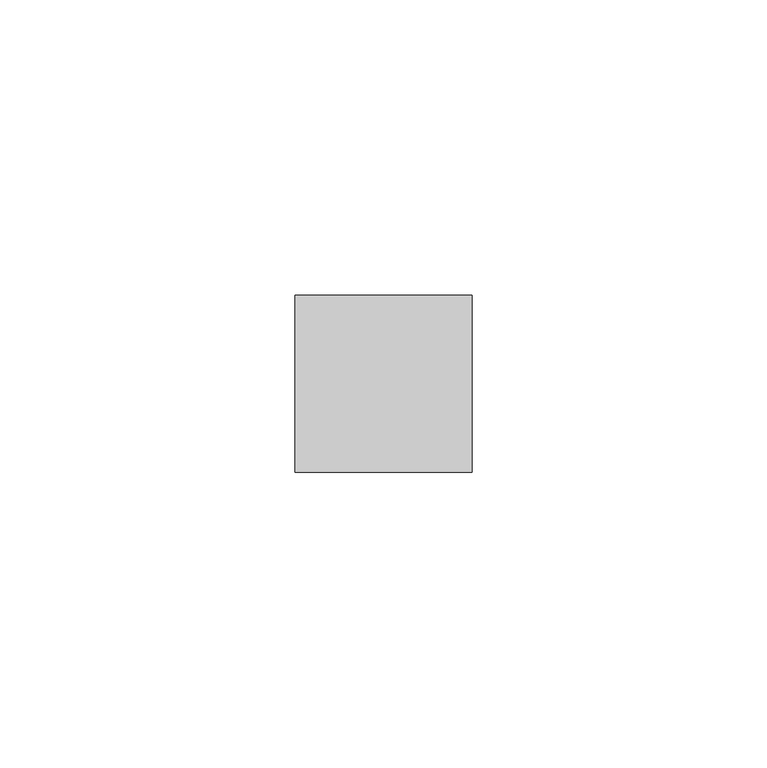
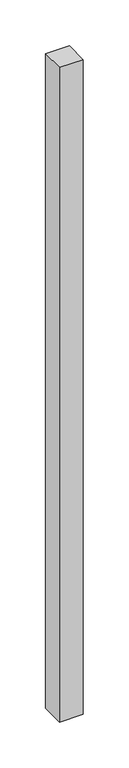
"""IFC4 building model written with IfcOpenShell, lengths in millimetres: member geometry, 矩形竖梃 : 30mm 正方形."""

from ifc_helpers import new_model, si_unit, frame, origin, place, context, project, spatial, polyline, outline, extrude, source, transform, mapped, element, save


def member_d0a898d2(model_context):
    return source(origin(), model_context, "Body", "SweptSolid", [
        extrude(outline(polyline([(15.0, 15.0), (15.0, -15.0), (-15.0, -15.0), (-15.0, 15.0), (15.0, 15.0)])), frame((0.0, 0.0, -871.6666667), z_axis=(0.0, 0.0, 1.0), x_axis=(1.0, 0.0, 0.0)), (0.0, 0.0, 1.0), 871.6666667),
    ])


if __name__ == "__main__":
    model = new_model("IFC4")
    model_context = context("Model", 3, world=origin())
    ifc_project = project(units=[si_unit("LENGTHUNIT", "METRE", prefix="MILLI")], contexts=[model_context])
    site = spatial("IfcSite", under=ifc_project)
    building = spatial("IfcBuilding", under=site)
    placement = place(None, origin())
    member_shape = member_d0a898d2(model_context)
    element("IfcMember", 1, ObjectType="矩形竖梃 : 30mm 正方形", at=placement, inside=building, context=model_context, shape_type="MappedRepresentation", body=[
        mapped(member_shape, transform((0.0, 0.0, 0.0), x_axis=(1.0, 0.0, 0.0), y_axis=(0.0, 1.0, 0.0), z_axis=(0.0, 0.0, 1.0))),
    ])
    save(model, "model.ifc")
